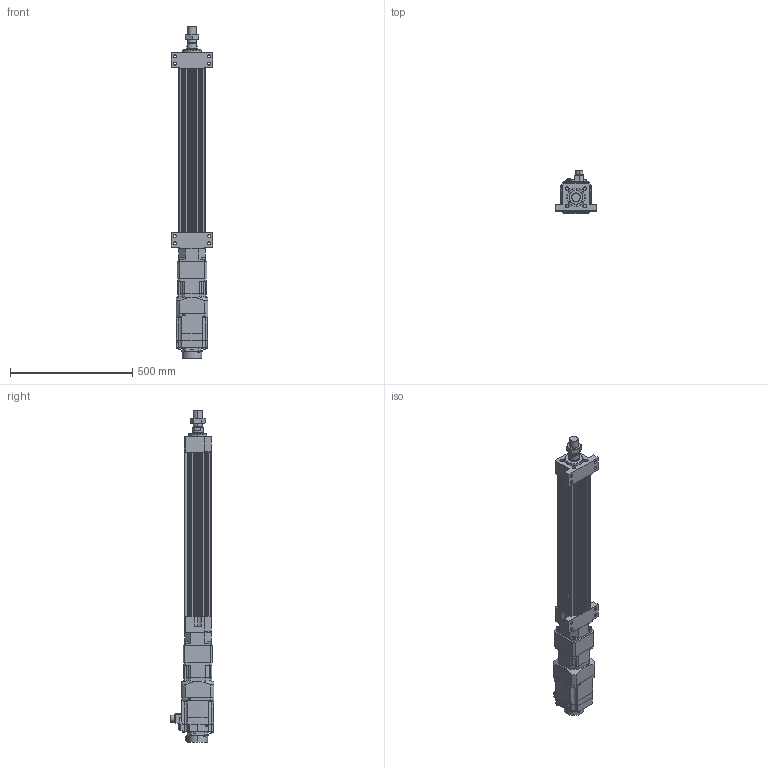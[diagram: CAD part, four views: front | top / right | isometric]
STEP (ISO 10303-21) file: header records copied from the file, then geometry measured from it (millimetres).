
FILE_DESCRIPTION (( 'STEP AP203' ), '1' );
FILE_NAME ('HES110NS(HS)-S500-W015G00-M-FFB.STEP', '2026-06-10T06:00:47', ( 'tms' ), ( '' ), 'SwSTEP 2.0', 'SolidWorks 2013', '' );
FILE_SCHEMA (( 'CONFIG_CONTROL_DESIGN' ));
Length unit declared in the file: millimetre
Products named in the file (8): HES110-M-ROD-500; HES110-FFB-500; HES110NS(HS)-S500-W015G00-M-FFB; HES110-S-G120; AB1151; M36X1.5P; AB1152; HG-SR152B
Assembly tree (7 placements, depth 2):
  HES110NS(HS)-S500-W015G00-M-FFB
    HES110-FFB-500
    HES110-M-ROD-500
    M36X1.5P
    HES110-S-G120
    AB1151
    AB1152
    HG-SR152B
Bounding box: 170 x 177.49 x 1356 mm (x, y, z)
Volume: 9163866.4 mm3; surface area: 1229539.2 mm2
Topology: 5 solids, 12 shells, 1199 faces, 3044 edges, 1985 vertices
Faces by surface type: plane 561, cylinder 554, cone 70, bspline 10, torus 4
Entity records: 38159 total; most frequent: CARTESIAN_POINT 7343, DIRECTION 6579, ORIENTED_EDGE 6060, EDGE_CURVE 3040, AXIS2_PLACEMENT_3D 2434, VERTEX_POINT 1985, LINE 1711, VECTOR 1711
